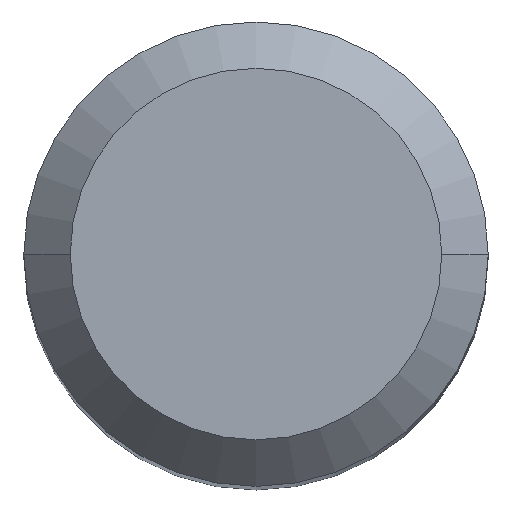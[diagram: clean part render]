
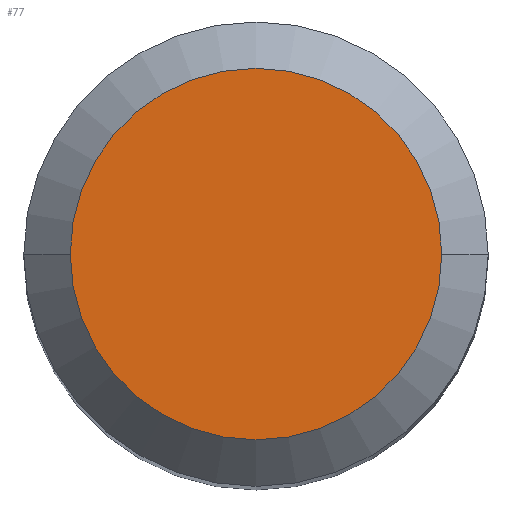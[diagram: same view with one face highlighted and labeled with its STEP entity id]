
A CAD part, top view. The second image highlights one B-rep face of the part: STEP entity #77.
In plain terms, the highlighted planar face has unit normal (0, 0, 1).
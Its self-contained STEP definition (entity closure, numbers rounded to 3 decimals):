
#23 = EDGE_CURVE ( 'NONE', #177, #186, #329, .T. ) ;
#76 = CARTESIAN_POINT ( 'NONE',  ( 0., 0., 0. ) ) ;
#77 = ADVANCED_FACE ( 'NONE', ( #259 ), #417, .T. ) ;
#109 = EDGE_CURVE ( 'NONE', #186, #177, #360, .T. ) ;
#124 = CARTESIAN_POINT ( 'NONE',  ( 0., 0., 0. ) ) ;
#177 = VERTEX_POINT ( 'NONE', #232 ) ;
#180 = EDGE_LOOP ( 'NONE', ( #215, #382 ) ) ;
#186 = VERTEX_POINT ( 'NONE', #327 ) ;
#215 = ORIENTED_EDGE ( 'NONE', *, *, #109, .F. ) ;
#224 = CARTESIAN_POINT ( 'NONE',  ( 0., 3.2, 0. ) ) ;
#232 = CARTESIAN_POINT ( 'NONE',  ( 3.2, 0., 0. ) ) ;
#259 = FACE_OUTER_BOUND ( 'NONE', #180, .T. ) ;
#293 = DIRECTION ( 'NONE',  ( 1., 0., 0. ) ) ;
#327 = CARTESIAN_POINT ( 'NONE',  ( -3.2, 0., 0. ) ) ;
#329 = CIRCLE ( 'NONE', #434, 3.2 ) ;
#344 = DIRECTION ( 'NONE',  ( 0., 0., -1. ) ) ;
#360 = CIRCLE ( 'NONE', #368, 3.2 ) ;
#368 = AXIS2_PLACEMENT_3D ( 'NONE', #124, #344, #388 ) ;
#369 = DIRECTION ( 'NONE',  ( -1., 0., 0. ) ) ;
#380 = DIRECTION ( 'NONE',  ( 0., 0., 1. ) ) ;
#382 = ORIENTED_EDGE ( 'NONE', *, *, #23, .F. ) ;
#388 = DIRECTION ( 'NONE',  ( -1., 0., 0. ) ) ;
#400 = AXIS2_PLACEMENT_3D ( 'NONE', #224, #380, #293 ) ;
#417 = PLANE ( 'NONE',  #400 ) ;
#434 = AXIS2_PLACEMENT_3D ( 'NONE', #76, #464, #369 ) ;
#464 = DIRECTION ( 'NONE',  ( 0., 0., -1. ) ) ;
